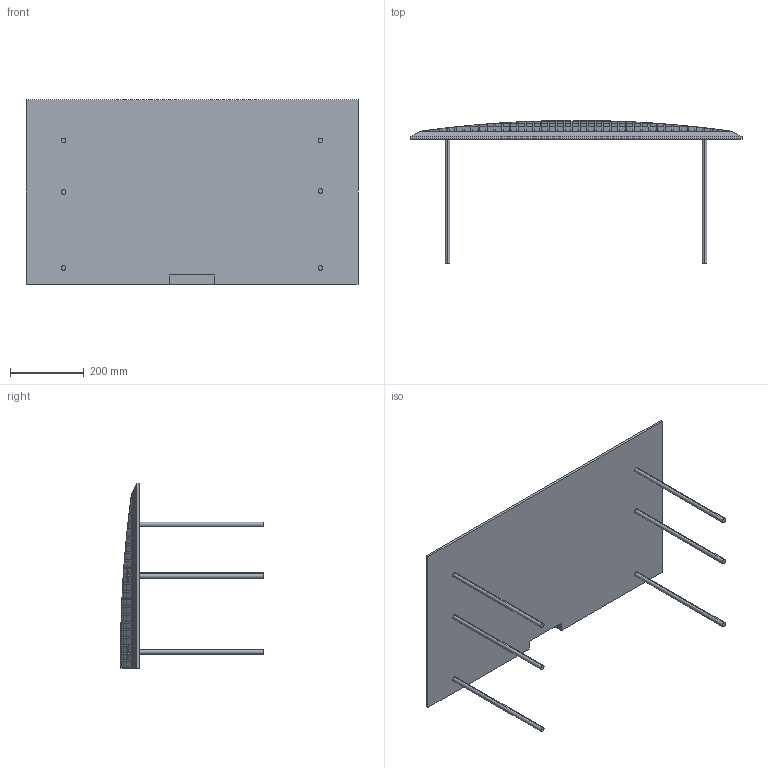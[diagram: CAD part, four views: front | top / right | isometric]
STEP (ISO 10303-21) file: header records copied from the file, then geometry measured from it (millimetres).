
FILE_DESCRIPTION (( 'STEP AP214' ), '1' );
FILE_NAME ('female end boot.STEP', '2024-06-10T21:26:32', ( '' ), ( '' ), 'SwSTEP 2.0', 'SolidWorks 2013', '' );
FILE_SCHEMA (( 'AUTOMOTIVE_DESIGN' ));
Length unit declared in the file: inch
Products named in the file (1): female end boot
Bounding box: 899.16 x 387.29 x 500.38 mm (x, y, z)
Volume: 15032374.4 mm3; surface area: 1499248.2 mm2
Topology: 161 solids, 161 shells, 1288 faces, 2730 edges, 1819 vertices
Faces by surface type: plane 455, bspline 418, cylinder 415
Entity records: 78833 total; most frequent: CARTESIAN_POINT 51344, ORIENTED_EDGE 5460, DIRECTION 4371, EDGE_CURVE 2730, VERTEX_POINT 1819, AXIS2_PLACEMENT_3D 1722, EDGE_LOOP 1355, ADVANCED_FACE 1288
